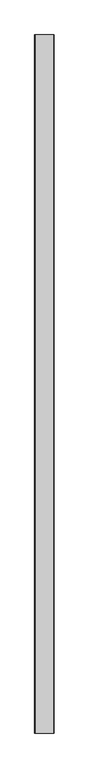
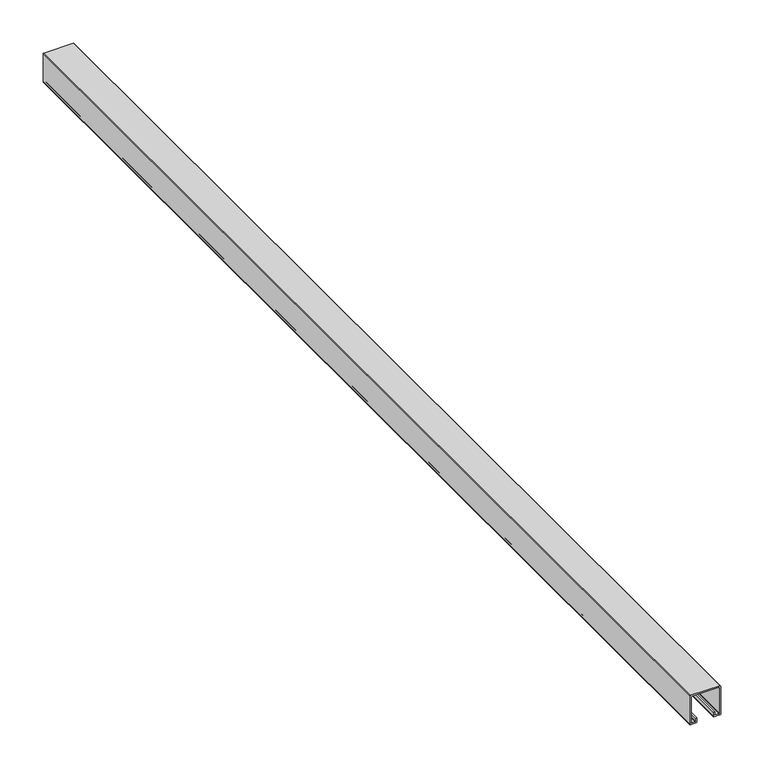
"""IFC4 building model written with IfcOpenShell, lengths in millimetres: proxy geometry, modelo_altus 12.3dm."""

from ifc_helpers import new_model, si_unit, point, frame, frame_2d, origin, place, context, project, spatial, polyline, circle_curve, trimmed, segment, composite_curve, outline, extrude, source, transform, mapped, element, save


def generic_models_76d1f47b(model_context):
    return source(origin(), model_context, "Body", "SweptSolid", [
        extrude(outline(composite_curve([segment(polyline([(-52.5674225, -1300.7392608), (-48.9674225, -1300.7392608)]), True, "CONTINUOUS"), segment(trimmed(circle_curve(frame_2d((-48.9674225, -1301.7392608)), 1.0), [point((-48.9674225, -1300.7392608))], [point((-48.9674225, -1302.7392608))], False, "CARTESIAN"), True, "CONTINUOUS"), segment(polyline([(-48.9674225, -1302.7392608), (-54.0674225, -1302.7392608)]), True, "CONTINUOUS"), segment(trimmed(circle_curve(frame_2d((-54.0674225, -1301.7392608)), 1.0), [point((-54.0674225, -1302.7392608))], [point((-55.0674225, -1301.7392608))], False, "CARTESIAN"), True, "CONTINUOUS"), segment(polyline([(-55.0674225, -1301.7392608), (-55.0674225, -1294.1892608)]), True, "CONTINUOUS"), segment(trimmed(circle_curve(frame_2d((-54.0674225, -1294.1892608)), 1.0), [point((-55.0674225, -1294.1892608))], [point((-54.0674225, -1293.1892608))], False, "CARTESIAN"), True, "CONTINUOUS"), segment(polyline([(-54.0674225, -1293.1892608), (-14.7674225, -1293.1892608)]), True, "CONTINUOUS"), segment(trimmed(circle_curve(frame_2d((-14.7674225, -1294.1892608)), 1.0), [point((-14.7674225, -1293.1892608))], [point((-13.7674225, -1294.1892608))], False, "CARTESIAN"), True, "CONTINUOUS"), segment(polyline([(-13.7674225, -1294.1892608), (-13.7674225, -1333.4892608)]), True, "CONTINUOUS"), segment(trimmed(circle_curve(frame_2d((-14.7674225, -1333.4892608)), 1.0), [point((-13.7674225, -1333.4892608))], [point((-14.7674225, -1334.4892608))], False, "CARTESIAN"), True, "CONTINUOUS"), segment(polyline([(-14.7674225, -1334.4892608), (-54.0674225, -1334.4892608)]), True, "CONTINUOUS"), segment(trimmed(circle_curve(frame_2d((-54.0674225, -1333.4892608)), 1.0), [point((-54.0674225, -1334.4892608))], [point((-55.0674225, -1333.4892608))], False, "CARTESIAN"), True, "CONTINUOUS"), segment(polyline([(-55.0674225, -1333.4892608), (-55.0674225, -1325.9392608)]), True, "CONTINUOUS"), segment(trimmed(circle_curve(frame_2d((-54.0674225, -1325.9392608)), 1.0), [point((-55.0674225, -1325.9392608))], [point((-54.0674225, -1324.9392608))], False, "CARTESIAN"), True, "CONTINUOUS"), segment(polyline([(-54.0674225, -1324.9392608), (-48.9674225, -1324.9392608)]), True, "CONTINUOUS"), segment(trimmed(circle_curve(frame_2d((-48.9674225, -1325.9392608)), 1.0), [point((-48.9674225, -1324.9392608))], [point((-48.9674225, -1326.9392608))], False, "CARTESIAN"), True, "CONTINUOUS"), segment(polyline([(-48.9674225, -1326.9392608), (-52.5674225, -1326.9392608)]), True, "CONTINUOUS"), segment(trimmed(circle_curve(frame_2d((-52.5674225, -1327.4392608)), 0.5), [point((-52.5674225, -1326.9392608))], [point((-53.0674225, -1327.4392608))], True, "CARTESIAN"), True, "CONTINUOUS"), segment(polyline([(-53.0674225, -1327.4392608), (-53.0674225, -1331.9892608)]), True, "CONTINUOUS"), segment(trimmed(circle_curve(frame_2d((-52.5674225, -1331.9892608)), 0.5), [point((-53.0674225, -1331.9892608))], [point((-52.5674225, -1332.4892608))], True, "CARTESIAN"), True, "CONTINUOUS"), segment(polyline([(-52.5674225, -1332.4892608), (-16.2674225, -1332.4892608)]), True, "CONTINUOUS"), segment(trimmed(circle_curve(frame_2d((-16.2674225, -1331.9892608)), 0.5), [point((-16.2674225, -1332.4892608))], [point((-15.7674225, -1331.9892608))], True, "CARTESIAN"), True, "CONTINUOUS"), segment(polyline([(-15.7674225, -1331.9892608), (-15.7674225, -1295.6892608)]), True, "CONTINUOUS"), segment(trimmed(circle_curve(frame_2d((-16.2674225, -1295.6892608)), 0.5), [point((-15.7674225, -1295.6892608))], [point((-16.2674225, -1295.1892608))], True, "CARTESIAN"), True, "CONTINUOUS"), segment(polyline([(-16.2674225, -1295.1892608), (-52.5674225, -1295.1892608)]), True, "CONTINUOUS"), segment(trimmed(circle_curve(frame_2d((-52.5674225, -1295.6892608)), 0.5), [point((-52.5674225, -1295.1892608))], [point((-53.0674225, -1295.6892608))], True, "CARTESIAN"), True, "CONTINUOUS"), segment(polyline([(-53.0674225, -1295.6892608), (-53.0674225, -1300.2392608)]), True, "CONTINUOUS"), segment(trimmed(circle_curve(frame_2d((-52.5674225, -1300.2392608)), 0.5), [point((-53.0674225, -1300.2392608))], [point((-52.5674225, -1300.7392608))], True, "CARTESIAN"), True, "CONTINUOUS")], self_intersect=False)), frame((0.0, -142.0904841, 0.0), z_axis=(0.0, 1.0, 0.0), x_axis=(0.0, 0.0, 1.0)), (0.0, 0.0, 1.0), 1498.6),
    ])


if __name__ == "__main__":
    model = new_model("IFC4")
    model_context = context("Model", 3, world=origin())
    ifc_project = project(units=[si_unit("LENGTHUNIT", "METRE", prefix="MILLI")], contexts=[model_context])
    site = spatial("IfcSite", under=ifc_project)
    building = spatial("IfcBuilding", under=site)
    placement = place(None, origin())
    generic_models_shape = generic_models_76d1f47b(model_context)
    element("IfcBuildingElementProxy", 1, Name="modelo_altus 12.3dm", ObjectType="modelo_altus 12.3dm", at=placement, inside=building, context=model_context, shape_type="MappedRepresentation", body=[
        mapped(generic_models_shape, transform((0.0, 0.0, 0.0), x_axis=(1.0, 0.0, 0.0), y_axis=(0.0, 1.0, 0.0), z_axis=(0.0, 0.0, 1.0))),
    ])
    save(model, "model.ifc")
